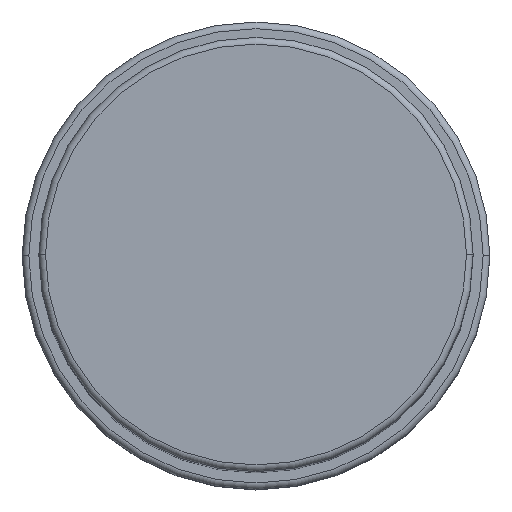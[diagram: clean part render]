
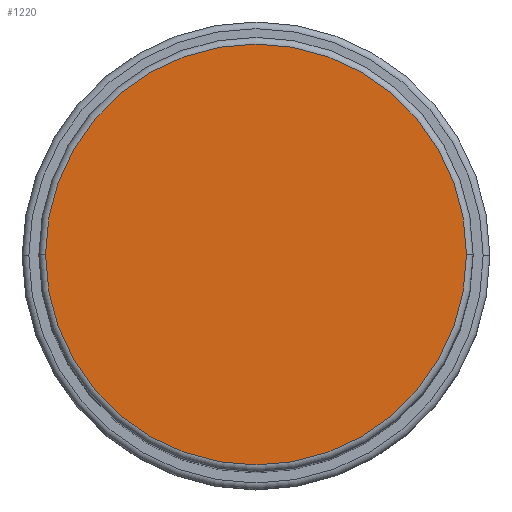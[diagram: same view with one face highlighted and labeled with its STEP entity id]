
A CAD part, top view. The second image highlights one B-rep face of the part: STEP entity #1220.
In plain terms, the highlighted planar face has unit normal (0, 0, 1).
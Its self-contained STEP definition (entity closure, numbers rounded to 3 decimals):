
#81 = DIRECTION ( 'NONE',  ( 1., 0., 0. ) ) ;
#345 = DIRECTION ( 'NONE',  ( 0., 0., 1. ) ) ;
#367 = EDGE_LOOP ( 'NONE', ( #1634, #1650 ) ) ;
#470 = VERTEX_POINT ( 'NONE', #564 ) ;
#479 = DIRECTION ( 'NONE',  ( 0., 0., 1. ) ) ;
#564 = CARTESIAN_POINT ( 'NONE',  ( -31.5, 0., 128. ) ) ;
#566 = FACE_OUTER_BOUND ( 'NONE', #367, .T. ) ;
#607 = DIRECTION ( 'NONE',  ( 0., 0., 1. ) ) ;
#700 = CIRCLE ( 'NONE', #1671, 31.5 ) ;
#754 = AXIS2_PLACEMENT_3D ( 'NONE', #1008, #479, #1325 ) ;
#874 = PLANE ( 'NONE',  #754 ) ;
#884 = CIRCLE ( 'NONE', #1241, 31.5 ) ;
#916 = EDGE_CURVE ( 'NONE', #470, #1275, #700, .T. ) ;
#1008 = CARTESIAN_POINT ( 'NONE',  ( 0., 0., 128. ) ) ;
#1050 = CARTESIAN_POINT ( 'NONE',  ( 31.5, 0., 128. ) ) ;
#1149 = CARTESIAN_POINT ( 'NONE',  ( 0., 0., 128. ) ) ;
#1199 = EDGE_CURVE ( 'NONE', #1275, #470, #884, .T. ) ;
#1220 = ADVANCED_FACE ( 'NONE', ( #566 ), #874, .T. ) ;
#1241 = AXIS2_PLACEMENT_3D ( 'NONE', #1149, #345, #1293 ) ;
#1275 = VERTEX_POINT ( 'NONE', #1050 ) ;
#1293 = DIRECTION ( 'NONE',  ( 1., 0., 0. ) ) ;
#1307 = CARTESIAN_POINT ( 'NONE',  ( 0., 0., 128. ) ) ;
#1325 = DIRECTION ( 'NONE',  ( 1., 0., 0. ) ) ;
#1634 = ORIENTED_EDGE ( 'NONE', *, *, #1199, .T. ) ;
#1650 = ORIENTED_EDGE ( 'NONE', *, *, #916, .T. ) ;
#1671 = AXIS2_PLACEMENT_3D ( 'NONE', #1307, #607, #81 ) ;
